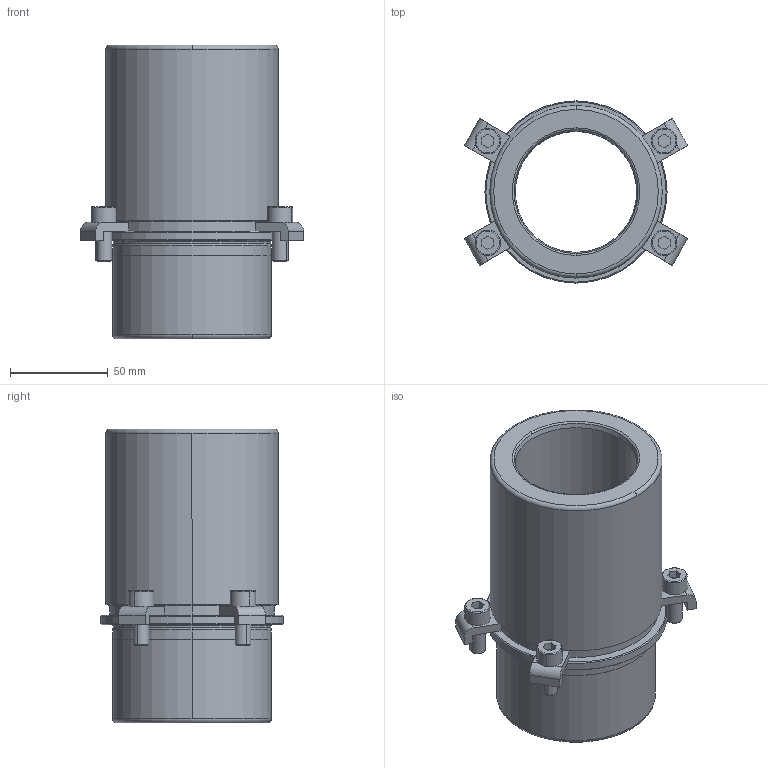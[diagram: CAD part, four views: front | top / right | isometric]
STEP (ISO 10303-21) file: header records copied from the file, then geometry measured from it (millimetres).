
FILE_DESCRIPTION((''),'2;1');
FILE_NAME('B40_050_100.stp','2009-01-05T16:42:19',(''),(''),'Mechanical Desktop 2009','Mechanical Desktop 2009',', , ');
FILE_SCHEMA(('CONFIG_CONTROL_DESIGN'));
Length unit declared in the file: millimetre
Products named in the file (2): Product; blmdl1
Assembly tree (1 placements, depth 2):
  Product
    blmdl1
Bounding box: 114.12 x 93 x 150 mm (x, y, z)
Volume: 426049.2 mm3; surface area: 86099.5 mm2
Topology: 9 solids, 9 shells, 173 faces, 422 edges, 278 vertices
Faces by surface type: plane 73, cylinder 50, cone 22, torus 16, bspline 12
Entity records: 5767 total; most frequent: CARTESIAN_POINT 1403, DIRECTION 966, ORIENTED_EDGE 844, EDGE_CURVE 422, AXIS2_PLACEMENT_3D 381, VERTEX_POINT 278, CIRCLE 218, VECTOR 204
